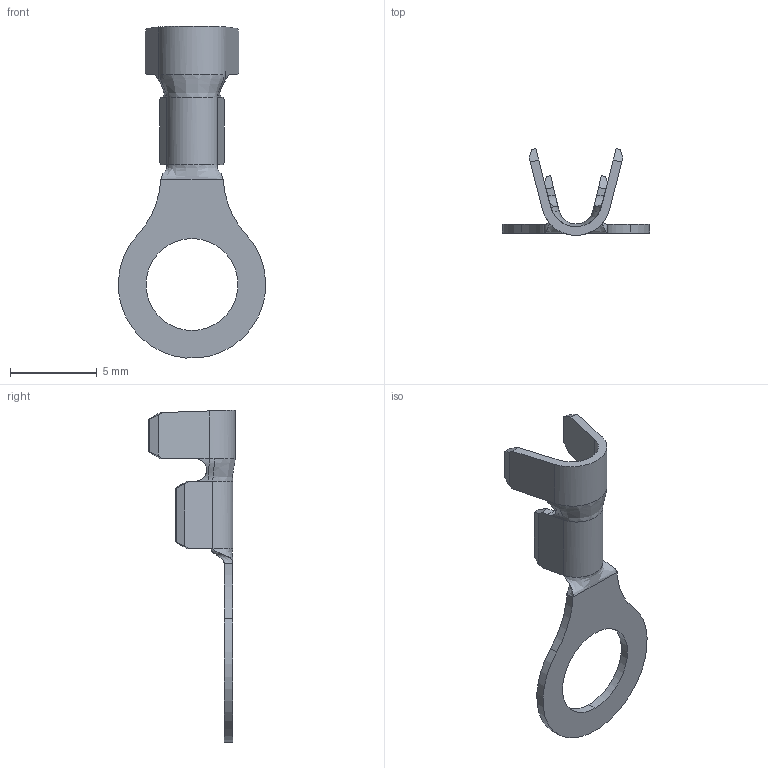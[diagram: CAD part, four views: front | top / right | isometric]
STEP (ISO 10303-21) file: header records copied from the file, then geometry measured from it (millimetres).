
FILE_DESCRIPTION((''),'2;1');
FILE_NAME('43752','2024-05-14T20:53:28',('JSB0628'),(''),'CREO PARAMETRIC BY PTC INC, 2018050','CREO PARAMETRIC BY PTC INC, 2018050','');
FILE_SCHEMA(('CONFIG_CONTROL_DESIGN'));
Length unit declared in the file: millimetre
Products named in the file (1): 43752
Bounding box: 8.49 x 5 x 19.14 mm (x, y, z)
Volume: 55.3 mm3; surface area: 263.9 mm2
Topology: 1 solids, 1 shells, 60 faces, 148 edges, 90 vertices
Faces by surface type: plane 33, bspline 16, cylinder 11
Entity records: 2816 total; most frequent: CARTESIAN_POINT 1457, ORIENTED_EDGE 296, DIRECTION 224, EDGE_CURVE 148, VECTOR 102, LINE 102, VERTEX_POINT 90, EDGE_LOOP 62
